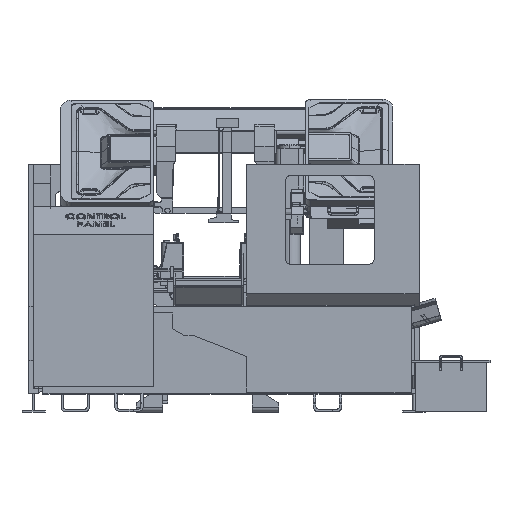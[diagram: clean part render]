
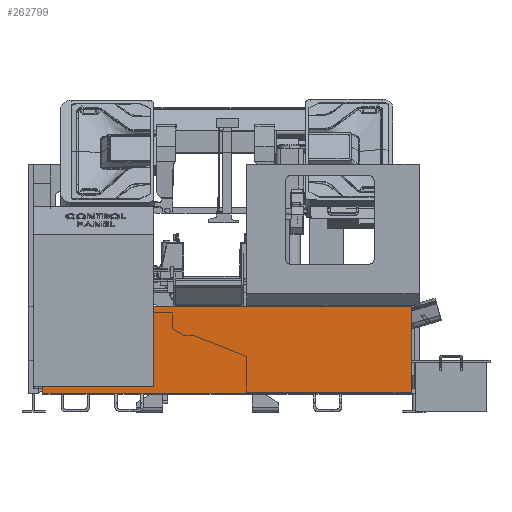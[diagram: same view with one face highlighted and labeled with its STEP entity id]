
A CAD part, top view. The second image highlights one B-rep face of the part: STEP entity #262799.
In plain terms, the highlighted planar face has unit normal (0, 0, 1).
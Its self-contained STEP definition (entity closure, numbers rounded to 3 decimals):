
#5627 = DIRECTION ( 'NONE',  ( -1., 0., 0. ) ) ;
#5707 = EDGE_CURVE ( 'NONE', #172421, #88567, #213919, .T. ) ;
#5769 = CARTESIAN_POINT ( 'NONE',  ( -1515., -463., 0. ) ) ;
#8475 = CARTESIAN_POINT ( 'NONE',  ( -2080., -424., 0. ) ) ;
#9920 = VECTOR ( 'NONE', #215054, 1000. ) ;
#13422 = EDGE_LOOP ( 'NONE', ( #153890, #232252, #18146, #138318, #211141, #226898, #145958, #83887, #137923, #130045, #275346, #240954, #263812, #220441 ) ) ;
#18146 = ORIENTED_EDGE ( 'NONE', *, *, #162720, .F. ) ;
#26709 = DIRECTION ( 'NONE',  ( 0., 0., -1. ) ) ;
#31364 = VERTEX_POINT ( 'NONE', #203686 ) ;
#32342 = EDGE_CURVE ( 'NONE', #184569, #88567, #240889, .T. ) ;
#35615 = VECTOR ( 'NONE', #237329, 1000. ) ;
#39383 = DIRECTION ( 'NONE',  ( 1., 0., 0. ) ) ;
#41052 = VECTOR ( 'NONE', #102940, 1000. ) ;
#42241 = CARTESIAN_POINT ( 'NONE',  ( -741.77, -463., 0. ) ) ;
#42978 = VERTEX_POINT ( 'NONE', #61037 ) ;
#43391 = DIRECTION ( 'NONE',  ( -1., 0., 0. ) ) ;
#54776 = CARTESIAN_POINT ( 'NONE',  ( -1529., -463., 0. ) ) ;
#56160 = LINE ( 'NONE', #274889, #41052 ) ;
#58767 = EDGE_CURVE ( 'NONE', #114192, #42978, #72850, .T. ) ;
#60490 = DIRECTION ( 'NONE',  ( 1., 0., 0. ) ) ;
#61037 = CARTESIAN_POINT ( 'NONE',  ( 0., 32., 0. ) ) ;
#61091 = LINE ( 'NONE', #63908, #100109 ) ;
#63780 = CARTESIAN_POINT ( 'NONE',  ( -1675., -463., 0. ) ) ;
#63908 = CARTESIAN_POINT ( 'NONE',  ( 0., -463., 0. ) ) ;
#65352 = CARTESIAN_POINT ( 'NONE',  ( -1661., -463., 0. ) ) ;
#66138 = CARTESIAN_POINT ( 'NONE',  ( -1328.23, -463., 0. ) ) ;
#67063 = LINE ( 'NONE', #150944, #185318 ) ;
#69876 = EDGE_CURVE ( 'NONE', #116626, #191785, #280387, .T. ) ;
#72850 = LINE ( 'NONE', #159528, #206828 ) ;
#77923 = VECTOR ( 'NONE', #137686, 1000. ) ;
#80373 = LINE ( 'NONE', #148555, #99432 ) ;
#83887 = ORIENTED_EDGE ( 'NONE', *, *, #183508, .T. ) ;
#88278 = CARTESIAN_POINT ( 'NONE',  ( 0., -463., 0. ) ) ;
#88567 = VERTEX_POINT ( 'NONE', #63780 ) ;
#91583 = EDGE_CURVE ( 'NONE', #177063, #161740, #112126, .T. ) ;
#98862 = LINE ( 'NONE', #185556, #178861 ) ;
#99432 = VECTOR ( 'NONE', #60490, 1000. ) ;
#100109 = VECTOR ( 'NONE', #255705, 1000. ) ;
#102940 = DIRECTION ( 'NONE',  ( 0., 1., 0. ) ) ;
#111978 = CARTESIAN_POINT ( 'NONE',  ( -1861.77, -463., 0. ) ) ;
#112126 = LINE ( 'NONE', #198795, #77923 ) ;
#114192 = VERTEX_POINT ( 'NONE', #88278 ) ;
#114275 = VERTEX_POINT ( 'NONE', #5769 ) ;
#114571 = CARTESIAN_POINT ( 'NONE',  ( -1455., -424., 0. ) ) ;
#116626 = VERTEX_POINT ( 'NONE', #114571 ) ;
#121871 = VECTOR ( 'NONE', #198645, 1000. ) ;
#122459 = CARTESIAN_POINT ( 'NONE',  ( -555., -463., 0. ) ) ;
#126830 = DIRECTION ( 'NONE',  ( 0., -1., 0. ) ) ;
#130045 = ORIENTED_EDGE ( 'NONE', *, *, #91583, .T. ) ;
#130846 = EDGE_CURVE ( 'NONE', #132545, #116626, #67063, .T. ) ;
#132545 = VERTEX_POINT ( 'NONE', #233087 ) ;
#132975 = CARTESIAN_POINT ( 'NONE',  ( 0., -463., 0. ) ) ;
#135093 = EDGE_CURVE ( 'NONE', #161740, #31364, #234084, .T. ) ;
#136180 = FACE_OUTER_BOUND ( 'NONE', #13422, .T. ) ;
#137574 = CARTESIAN_POINT ( 'NONE',  ( 0., 0., 0. ) ) ;
#137686 = DIRECTION ( 'NONE',  ( 1., 0., 0. ) ) ;
#137923 = ORIENTED_EDGE ( 'NONE', *, *, #246293, .F. ) ;
#138318 = ORIENTED_EDGE ( 'NONE', *, *, #32342, .T. ) ;
#138756 = DIRECTION ( 'NONE',  ( 1., 0., 0. ) ) ;
#139121 = VECTOR ( 'NONE', #5627, 1000. ) ;
#142044 = CARTESIAN_POINT ( 'NONE',  ( -2075., 32., 0. ) ) ;
#145958 = ORIENTED_EDGE ( 'NONE', *, *, #245996, .T. ) ;
#146960 = AXIS2_PLACEMENT_3D ( 'NONE', #137574, #26709, #178774 ) ;
#147139 = VERTEX_POINT ( 'NONE', #122459 ) ;
#148555 = CARTESIAN_POINT ( 'NONE',  ( 0., -463., 0. ) ) ;
#150944 = CARTESIAN_POINT ( 'NONE',  ( -1455., 606., 0. ) ) ;
#152867 = DIRECTION ( 'NONE',  ( 1., 0., 0. ) ) ;
#153890 = ORIENTED_EDGE ( 'NONE', *, *, #130846, .T. ) ;
#159221 = CARTESIAN_POINT ( 'NONE',  ( -541., -463., 0. ) ) ;
#159528 = CARTESIAN_POINT ( 'NONE',  ( 0., 32., 0. ) ) ;
#161740 = VERTEX_POINT ( 'NONE', #188574 ) ;
#162720 = EDGE_CURVE ( 'NONE', #184569, #191785, #56160, .T. ) ;
#172421 = VERTEX_POINT ( 'NONE', #65352 ) ;
#175245 = CARTESIAN_POINT ( 'NONE',  ( -392.691, -424., 0. ) ) ;
#177063 = VERTEX_POINT ( 'NONE', #159221 ) ;
#178774 = DIRECTION ( 'NONE',  ( -1., 0., 0. ) ) ;
#178861 = VECTOR ( 'NONE', #138756, 1000. ) ;
#180152 = PLANE ( 'NONE',  #146960 ) ;
#183508 = EDGE_CURVE ( 'NONE', #114275, #147139, #80373, .T. ) ;
#184569 = VERTEX_POINT ( 'NONE', #204586 ) ;
#185255 = VECTOR ( 'NONE', #43391, 1000. ) ;
#185318 = VECTOR ( 'NONE', #126830, 1000. ) ;
#185556 = CARTESIAN_POINT ( 'NONE',  ( 0., -463., 0. ) ) ;
#188574 = CARTESIAN_POINT ( 'NONE',  ( -409., -463., 0. ) ) ;
#190764 = VECTOR ( 'NONE', #39383, 1000. ) ;
#191785 = VERTEX_POINT ( 'NONE', #8475 ) ;
#196112 = CARTESIAN_POINT ( 'NONE',  ( -208.23, -463., 0. ) ) ;
#198645 = DIRECTION ( 'NONE',  ( 1., 0., 0. ) ) ;
#198795 = CARTESIAN_POINT ( 'NONE',  ( 0., -463., 0. ) ) ;
#199462 = EDGE_CURVE ( 'NONE', #31364, #114192, #98862, .T. ) ;
#203686 = CARTESIAN_POINT ( 'NONE',  ( -395., -463., 0. ) ) ;
#204517 = LINE ( 'NONE', #142044, #139121 ) ;
#204586 = CARTESIAN_POINT ( 'NONE',  ( -2080., -463., 0. ) ) ;
#206828 = VECTOR ( 'NONE', #246145, 1000. ) ;
#211141 = ORIENTED_EDGE ( 'NONE', *, *, #5707, .F. ) ;
#213919 = LINE ( 'NONE', #66138, #185255 ) ;
#214703 = VECTOR ( 'NONE', #152867, 1000. ) ;
#215054 = DIRECTION ( 'NONE',  ( -1., 0., 0. ) ) ;
#220441 = ORIENTED_EDGE ( 'NONE', *, *, #277292, .T. ) ;
#224127 = VERTEX_POINT ( 'NONE', #54776 ) ;
#226898 = ORIENTED_EDGE ( 'NONE', *, *, #253876, .T. ) ;
#232252 = ORIENTED_EDGE ( 'NONE', *, *, #69876, .T. ) ;
#233087 = CARTESIAN_POINT ( 'NONE',  ( -1455., 32., 0. ) ) ;
#234084 = LINE ( 'NONE', #42241, #190764 ) ;
#237329 = DIRECTION ( 'NONE',  ( -1., 0., 0. ) ) ;
#240103 = LINE ( 'NONE', #196112, #35615 ) ;
#240889 = LINE ( 'NONE', #132975, #214703 ) ;
#240954 = ORIENTED_EDGE ( 'NONE', *, *, #199462, .T. ) ;
#241273 = LINE ( 'NONE', #111978, #121871 ) ;
#245996 = EDGE_CURVE ( 'NONE', #224127, #114275, #241273, .T. ) ;
#246145 = DIRECTION ( 'NONE',  ( 0., 1., 0. ) ) ;
#246293 = EDGE_CURVE ( 'NONE', #177063, #147139, #240103, .T. ) ;
#253876 = EDGE_CURVE ( 'NONE', #172421, #224127, #61091, .T. ) ;
#255705 = DIRECTION ( 'NONE',  ( 1., 0., 0. ) ) ;
#262799 = ADVANCED_FACE ( 'NONE', ( #136180 ), #180152, .F. ) ;
#263812 = ORIENTED_EDGE ( 'NONE', *, *, #58767, .T. ) ;
#274889 = CARTESIAN_POINT ( 'NONE',  ( -2080., 32., 0. ) ) ;
#275346 = ORIENTED_EDGE ( 'NONE', *, *, #135093, .T. ) ;
#277292 = EDGE_CURVE ( 'NONE', #42978, #132545, #204517, .T. ) ;
#280387 = LINE ( 'NONE', #175245, #9920 ) ;
